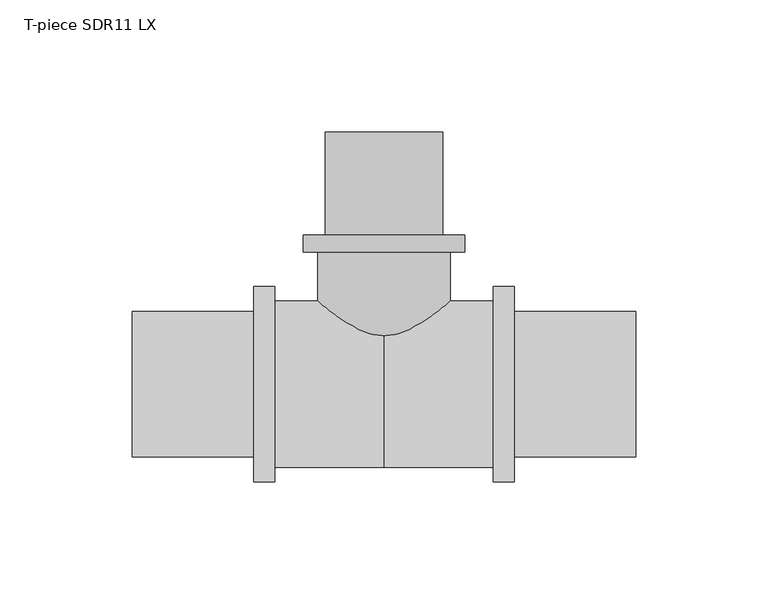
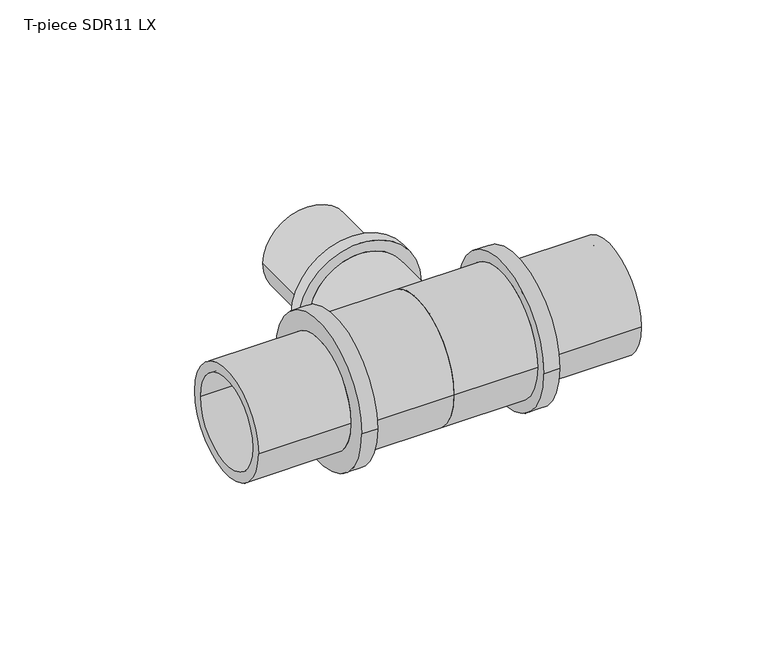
"""IFC4 building model written with IfcOpenShell, lengths in millimetres: pipe fitting geometry, T-piece SDR11 LX : T-piece LX SDR11 LX."""

from ifc_helpers import new_model, si_unit, point, frame, origin, place, context, project, spatial, polyline, circle_curve, ellipse_curve, trimmed, source, transform, mapped, element, save
from ifc_brep_helpers import plane_surface, cylinder_surface, revolved_surface, advanced_brep


def t_piece_sdr11_lx_7730ed08(model_context):
    return source(origin(), model_context, "Body", "AdvancedBrep", [
        advanced_brep(
        [(25.0, 2.0160392, 0.0), (-25.0, 2.0160392, 0.0), (-25.0, 50.1, 0.0), (25.0, 50.1, 0.0), (17.75, 95.5, 0.0), (-17.75, 95.5, 0.0), (-17.75, 0.0, 0.0), (17.75, 0.0, 0.0), (22.15, 56.5, 0.0), (-22.15, 56.5, 0.0), (-22.15, 95.5, 0.0), (22.15, 95.5, 0.0), (30.5, 50.1, 0.0), (-30.5, 50.1, 0.0), (-30.5, 56.5, 0.0), (30.5, 56.5, 0.0)],
        [
            (0, 1, circle_curve(frame((0.0, 2.0160392, 0.0), z_axis=(0.0, 1.0, 0.0), x_axis=(-1.0, 0.0, 0.0)), 25.0)),
            (1, 2),
            (2, 3, circle_curve(frame((0.0, 50.1, 0.0), z_axis=(0.0, -1.0, 0.0), x_axis=(-1.0, 0.0, 0.0)), 25.0)),
            (3, 0),
            (4, 5, circle_curve(frame((0.0, 95.5, 0.0), z_axis=(0.0, 1.0, 0.0), x_axis=(-1.0, 0.0, 0.0)), 17.75)),
            (5, 6),
            (6, 7, circle_curve(frame((0.0, 0.0, 0.0), z_axis=(0.0, -1.0, 0.0), x_axis=(-1.0, 0.0, 0.0)), 17.75)),
            (7, 4),
            (8, 9, circle_curve(frame((0.0, 56.5, 0.0), z_axis=(0.0, 1.0, 0.0), x_axis=(-1.0, 0.0, 0.0)), 22.15)),
            (9, 10),
            (10, 11, circle_curve(frame((0.0, 95.5, 0.0), z_axis=(0.0, -1.0, 0.0), x_axis=(-1.0, 0.0, 0.0)), 22.15)),
            (11, 8),
            (12, 13, circle_curve(frame((0.0, 50.1, 0.0), z_axis=(0.0, 1.0, 0.0), x_axis=(-1.0, 0.0, 0.0)), 30.5)),
            (13, 14),
            (14, 15, circle_curve(frame((0.0, 56.5, 0.0), z_axis=(0.0, -1.0, 0.0), x_axis=(-1.0, 0.0, 0.0)), 30.5)),
            (15, 12),
            (12, 13, circle_curve(frame((0.0, 50.1, 0.0), z_axis=(0.0, -1.0, 0.0), x_axis=(1.0, 0.0, 0.0)), 30.5)),
            (2, 3, circle_curve(frame((0.0, 50.1, 0.0), z_axis=(0.0, 1.0, 0.0), x_axis=(1.0, 0.0, 0.0)), 25.0)),
            (1, 0, circle_curve(frame((0.0, 2.0160392, 0.0), z_axis=(0.0, 1.0, 0.0), x_axis=(1.0, 0.0, 0.0)), 25.0)),
            (5, 4, circle_curve(frame((0.0, 95.5, 0.0), z_axis=(0.0, 1.0, 0.0), x_axis=(1.0, 0.0, 0.0)), 17.75)),
            (7, 6, circle_curve(frame((0.0, 0.0, 0.0), z_axis=(0.0, -1.0, 0.0), x_axis=(1.0, 0.0, 0.0)), 17.75)),
            (10, 11, circle_curve(frame((0.0, 95.5, 0.0), z_axis=(0.0, 1.0, 0.0), x_axis=(1.0, 0.0, 0.0)), 22.15)),
            (9, 8, circle_curve(frame((0.0, 56.5, 0.0), z_axis=(0.0, 1.0, 0.0), x_axis=(1.0, 0.0, 0.0)), 22.15)),
            (14, 15, circle_curve(frame((0.0, 56.5, 0.0), z_axis=(0.0, 1.0, 0.0), x_axis=(1.0, 0.0, 0.0)), 30.5)),
            (6, 1, circle_curve(frame((-12.9962802, 31.1392381, 0.0), z_axis=(0.0, 0.0, -1.0), x_axis=(0.0, -1.0, 0.0)), 31.5)),
            (0, 7, circle_curve(frame((12.9962802, 31.1392381, 0.0), z_axis=(0.0, 0.0, -1.0), x_axis=(0.0, -1.0, 0.0)), 31.5)),
        ],
        [
            cylinder_surface(frame((0.0, 0.0, 0.0), z_axis=(0.0, -1.0, 0.0), x_axis=(-1.0, 0.0, 0.0)), 25.0),
            revolved_surface(polyline([(-17.75, 0.0, 0.0), (-17.75, 95.5, 0.0)]), (0.0, 0.0, 0.0), (0.0, -1.0, 0.0)),
            cylinder_surface(frame((0.0, 0.0, 0.0), z_axis=(0.0, -1.0, 0.0), x_axis=(-1.0, 0.0, 0.0)), 22.15),
            cylinder_surface(frame((0.0, 0.0, 0.0), z_axis=(0.0, -1.0, 0.0), x_axis=(-1.0, 0.0, 0.0)), 30.5),
            plane_surface(frame((0.0, 50.1, 0.0), z_axis=(0.0, -1.0, 0.0), x_axis=(1.0, 0.0, 0.0))),
            cylinder_surface(frame((0.0, 0.0, 0.0), z_axis=(0.0, -1.0, 0.0), x_axis=(1.0, 0.0, 0.0)), 25.0),
            revolved_surface(polyline([(17.75, 0.0, 0.0), (17.75, 95.5, 0.0)]), (0.0, 0.0, 0.0), (0.0, -1.0, 0.0)),
            plane_surface(frame((0.0, 95.5, 0.0), z_axis=(0.0, 1.0, 0.0), x_axis=(1.0, 0.0, 0.0))),
            cylinder_surface(frame((0.0, 0.0, 0.0), z_axis=(0.0, -1.0, 0.0), x_axis=(1.0, 0.0, 0.0)), 22.15),
            plane_surface(frame((0.0, 56.5, 0.0), z_axis=(0.0, 1.0, 0.0), x_axis=(1.0, 0.0, 0.0))),
            cylinder_surface(frame((0.0, 0.0, 0.0), z_axis=(0.0, -1.0, 0.0), x_axis=(1.0, 0.0, 0.0)), 30.5),
            revolved_surface(trimmed(ellipse_curve(frame((-12.9962802, 31.1392381, 0.0), z_axis=(0.0, 0.0, 1.0), x_axis=(0.0, -1.0, 0.0)), 31.5, 31.5), [point((-25.0, 2.0160392, 0.0))], [point((-17.75, 0.0, 0.0))], True, "CARTESIAN"), (0.0, 0.0, 0.0), (0.0, -1.0, 0.0)),
            revolved_surface(trimmed(ellipse_curve(frame((12.9962802, 31.1392381, 0.0), z_axis=(0.0, 0.0, -1.0), x_axis=(0.0, -1.0, 0.0)), 31.5, 31.5), [point((25.0, 2.0160392, 0.0))], [point((17.75, 0.0, 0.0))], True, "CARTESIAN"), (0.0, 0.0, 0.0), (0.0, -1.0, 0.0)),
        ],
        [
            (0, [[1, 2, 3, 4]]),
            (1, [[5, 6, 7, 8]]),
            (2, [[9, 10, 11, 12]]),
            (3, [[13, 14, 15, 16]]),
            (4, [[17, -13], [18, -3]]),
            (5, [[19, -4, -18, -2]]),
            (6, [[20, -8, 21, -6]]),
            (7, [[22, -11], [-20, -5]]),
            (8, [[23, -12, -22, -10]]),
            (9, [[24, -15], [-23, -9]]),
            (10, [[-17, -16, -24, -14]]),
            (11, [[-7, 25, -1, 26]]),
            (12, [[-21, -26, -19, -25]]),
        ],
    ),
        advanced_brep(
        [(41.4, 31.5, 0.0), (41.4, -31.5, 0.0), (0.0, -31.5, 0.0), (0.0, 31.5, 0.0), (0.0, 22.5, 0.0), (0.0, -22.5, 0.0), (95.3, -22.5, 0.0), (95.3, 22.5, 0.0), (95.3, 27.55, 0.0), (95.3, -27.55, 0.0), (49.3, -27.55, 0.0), (49.3, 27.55, 0.0), (49.3, 37.0, 0.0), (49.3, -37.0, 0.0), (41.4, -37.0, 0.0), (41.4, 37.0, 0.0)],
        [
            (0, 1, circle_curve(frame((41.4, 0.0, 0.0), z_axis=(-1.0, 0.0, 0.0), x_axis=(0.0, -1.0, 0.0)), 31.5)),
            (1, 2),
            (2, 3, circle_curve(frame((0.0, 0.0, 0.0), z_axis=(1.0, 0.0, 0.0), x_axis=(0.0, -1.0, 0.0)), 31.5)),
            (3, 0),
            (4, 5, circle_curve(frame((0.0, 0.0, 0.0), z_axis=(-1.0, 0.0, 0.0), x_axis=(0.0, -1.0, 0.0)), 22.5)),
            (5, 6),
            (6, 7, circle_curve(frame((95.3, 0.0, 0.0), z_axis=(1.0, 0.0, 0.0), x_axis=(0.0, -1.0, 0.0)), 22.5)),
            (7, 4),
            (8, 9, circle_curve(frame((95.3, 0.0, 0.0), z_axis=(-1.0, 0.0, 0.0), x_axis=(0.0, -1.0, 0.0)), 27.55)),
            (9, 10),
            (10, 11, circle_curve(frame((49.3, 0.0, 0.0), z_axis=(1.0, 0.0, 0.0), x_axis=(0.0, -1.0, 0.0)), 27.55)),
            (11, 8),
            (12, 13, circle_curve(frame((49.3, 0.0, 0.0), z_axis=(-1.0, 0.0, 0.0), x_axis=(0.0, -1.0, 0.0)), 37.0)),
            (13, 14),
            (14, 15, circle_curve(frame((41.4, 0.0, 0.0), z_axis=(1.0, 0.0, 0.0), x_axis=(0.0, -1.0, 0.0)), 37.0)),
            (15, 12),
            (14, 15, circle_curve(frame((41.4, 0.0, 0.0), z_axis=(-1.0, 0.0, 0.0), x_axis=(0.0, 1.0, 0.0)), 37.0)),
            (0, 1, circle_curve(frame((41.4, 0.0, 0.0), z_axis=(1.0, 0.0, 0.0), x_axis=(0.0, 1.0, 0.0)), 31.5)),
            (3, 2, circle_curve(frame((0.0, 0.0, 0.0), z_axis=(1.0, 0.0, 0.0), x_axis=(0.0, 1.0, 0.0)), 31.5)),
            (4, 5, circle_curve(frame((0.0, 0.0, 0.0), z_axis=(1.0, 0.0, 0.0), x_axis=(0.0, 1.0, 0.0)), 22.5)),
            (7, 6, circle_curve(frame((95.3, 0.0, 0.0), z_axis=(1.0, 0.0, 0.0), x_axis=(0.0, 1.0, 0.0)), 22.5)),
            (8, 9, circle_curve(frame((95.3, 0.0, 0.0), z_axis=(1.0, 0.0, 0.0), x_axis=(0.0, 1.0, 0.0)), 27.55)),
            (11, 10, circle_curve(frame((49.3, 0.0, 0.0), z_axis=(1.0, 0.0, 0.0), x_axis=(0.0, 1.0, 0.0)), 27.55)),
            (12, 13, circle_curve(frame((49.3, 0.0, 0.0), z_axis=(1.0, 0.0, 0.0), x_axis=(0.0, 1.0, 0.0)), 37.0)),
        ],
        [
            cylinder_surface(frame((0.0, 0.0, 0.0), z_axis=(1.0, 0.0, 0.0), x_axis=(0.0, -1.0, 0.0)), 31.5),
            revolved_surface(polyline([(95.3, -22.5, 0.0), (0.0, -22.5, 0.0)]), (0.0, 0.0, 0.0), (1.0, 0.0, 0.0)),
            cylinder_surface(frame((0.0, 0.0, 0.0), z_axis=(1.0, 0.0, 0.0), x_axis=(0.0, -1.0, 0.0)), 27.55),
            cylinder_surface(frame((0.0, 0.0, 0.0), z_axis=(1.0, 0.0, 0.0), x_axis=(0.0, -1.0, 0.0)), 37.0),
            plane_surface(frame((41.4, 0.0, 0.0), z_axis=(-1.0, 0.0, 0.0), x_axis=(0.0, 1.0, 0.0))),
            cylinder_surface(frame((0.0, 0.0, 0.0), z_axis=(1.0, 0.0, 0.0), x_axis=(0.0, 1.0, 0.0)), 31.5),
            plane_surface(frame((0.0, 0.0, 0.0), z_axis=(-1.0, 0.0, 0.0), x_axis=(0.0, 1.0, 0.0))),
            revolved_surface(polyline([(95.3, 22.5, 0.0), (0.0, 22.5, 0.0)]), (0.0, 0.0, 0.0), (1.0, 0.0, 0.0)),
            plane_surface(frame((95.3, 0.0, 0.0), z_axis=(1.0, 0.0, 0.0), x_axis=(0.0, 1.0, 0.0))),
            cylinder_surface(frame((0.0, 0.0, 0.0), z_axis=(1.0, 0.0, 0.0), x_axis=(0.0, 1.0, 0.0)), 27.55),
            plane_surface(frame((49.3, 0.0, 0.0), z_axis=(1.0, 0.0, 0.0), x_axis=(0.0, 1.0, 0.0))),
            cylinder_surface(frame((0.0, 0.0, 0.0), z_axis=(1.0, 0.0, 0.0), x_axis=(0.0, 1.0, 0.0)), 37.0),
        ],
        [
            (0, [[1, 2, 3, 4]]),
            (1, [[5, 6, 7, 8]]),
            (2, [[9, 10, 11, 12]]),
            (3, [[13, 14, 15, 16]]),
            (4, [[17, -15], [18, -1]]),
            (5, [[-18, -4, 19, -2]]),
            (6, [[-19, -3], [20, -5]]),
            (7, [[-20, -8, 21, -6]]),
            (8, [[22, -9], [-21, -7]]),
            (9, [[-22, -12, 23, -10]]),
            (10, [[24, -13], [-23, -11]]),
            (11, [[-24, -16, -17, -14]]),
        ],
    ),
        advanced_brep(
        [(0.0, 31.5, 0.0), (0.0, -31.5, 0.0), (-41.4, -31.5, 0.0), (-41.4, 31.5, 0.0), (-95.3, 22.5, 0.0), (-95.3, -22.5, 0.0), (0.0, -22.5, 0.0), (0.0, 22.5, 0.0), (-49.3, 27.55, 0.0), (-49.3, -27.55, 0.0), (-95.3, -27.55, 0.0), (-95.3, 27.55, 0.0), (-41.4, 37.0, 0.0), (-41.4, -37.0, 0.0), (-49.3, -37.0, 0.0), (-49.3, 37.0, 0.0)],
        [
            (0, 1, circle_curve(frame((0.0, 0.0, 0.0), z_axis=(-1.0, 0.0, 0.0), x_axis=(0.0, -1.0, 0.0)), 31.5)),
            (1, 2),
            (2, 3, circle_curve(frame((-41.4, 0.0, 0.0), z_axis=(1.0, 0.0, 0.0), x_axis=(0.0, -1.0, 0.0)), 31.5)),
            (3, 0),
            (4, 5, circle_curve(frame((-95.3, 0.0, 0.0), z_axis=(-1.0, 0.0, 0.0), x_axis=(0.0, -1.0, 0.0)), 22.5)),
            (5, 6),
            (6, 7, circle_curve(frame((0.0, 0.0, 0.0), z_axis=(1.0, 0.0, 0.0), x_axis=(0.0, -1.0, 0.0)), 22.5)),
            (7, 4),
            (8, 9, circle_curve(frame((-49.3, 0.0, 0.0), z_axis=(-1.0, 0.0, 0.0), x_axis=(0.0, -1.0, 0.0)), 27.55)),
            (9, 10),
            (10, 11, circle_curve(frame((-95.3, 0.0, 0.0), z_axis=(1.0, 0.0, 0.0), x_axis=(0.0, -1.0, 0.0)), 27.55)),
            (11, 8),
            (12, 13, circle_curve(frame((-41.4, 0.0, 0.0), z_axis=(-1.0, 0.0, 0.0), x_axis=(0.0, -1.0, 0.0)), 37.0)),
            (13, 14),
            (14, 15, circle_curve(frame((-49.3, 0.0, 0.0), z_axis=(1.0, 0.0, 0.0), x_axis=(0.0, -1.0, 0.0)), 37.0)),
            (15, 12),
            (12, 13, circle_curve(frame((-41.4, 0.0, 0.0), z_axis=(1.0, 0.0, 0.0), x_axis=(0.0, 1.0, 0.0)), 37.0)),
            (2, 3, circle_curve(frame((-41.4, 0.0, 0.0), z_axis=(-1.0, 0.0, 0.0), x_axis=(0.0, 1.0, 0.0)), 31.5)),
            (1, 0, circle_curve(frame((0.0, 0.0, 0.0), z_axis=(-1.0, 0.0, 0.0), x_axis=(0.0, 1.0, 0.0)), 31.5)),
            (6, 7, circle_curve(frame((0.0, 0.0, 0.0), z_axis=(-1.0, 0.0, 0.0), x_axis=(0.0, 1.0, 0.0)), 22.5)),
            (5, 4, circle_curve(frame((-95.3, 0.0, 0.0), z_axis=(-1.0, 0.0, 0.0), x_axis=(0.0, 1.0, 0.0)), 22.5)),
            (10, 11, circle_curve(frame((-95.3, 0.0, 0.0), z_axis=(-1.0, 0.0, 0.0), x_axis=(0.0, 1.0, 0.0)), 27.55)),
            (9, 8, circle_curve(frame((-49.3, 0.0, 0.0), z_axis=(-1.0, 0.0, 0.0), x_axis=(0.0, 1.0, 0.0)), 27.55)),
            (14, 15, circle_curve(frame((-49.3, 0.0, 0.0), z_axis=(-1.0, 0.0, 0.0), x_axis=(0.0, 1.0, 0.0)), 37.0)),
        ],
        [
            cylinder_surface(frame((0.0, 0.0, 0.0), z_axis=(1.0, 0.0, 0.0), x_axis=(0.0, -1.0, 0.0)), 31.5),
            revolved_surface(polyline([(0.0, -22.5, 0.0), (-95.3, -22.5, 0.0)]), (0.0, 0.0, 0.0), (1.0, 0.0, 0.0)),
            cylinder_surface(frame((0.0, 0.0, 0.0), z_axis=(1.0, 0.0, 0.0), x_axis=(0.0, -1.0, 0.0)), 27.55),
            cylinder_surface(frame((0.0, 0.0, 0.0), z_axis=(1.0, 0.0, 0.0), x_axis=(0.0, -1.0, 0.0)), 37.0),
            plane_surface(frame((-41.4, 0.0, 0.0), z_axis=(1.0, 0.0, 0.0), x_axis=(0.0, 1.0, 0.0))),
            cylinder_surface(frame((0.0, 0.0, 0.0), z_axis=(1.0, 0.0, 0.0), x_axis=(0.0, 1.0, 0.0)), 31.5),
            plane_surface(frame((0.0, 0.0, 0.0), z_axis=(1.0, 0.0, 0.0), x_axis=(0.0, 1.0, 0.0))),
            revolved_surface(polyline([(0.0, 22.5, 0.0), (-95.3, 22.5, 0.0)]), (0.0, 0.0, 0.0), (1.0, 0.0, 0.0)),
            plane_surface(frame((-95.3, 0.0, 0.0), z_axis=(-1.0, 0.0, 0.0), x_axis=(0.0, 1.0, 0.0))),
            cylinder_surface(frame((0.0, 0.0, 0.0), z_axis=(1.0, 0.0, 0.0), x_axis=(0.0, 1.0, 0.0)), 27.55),
            plane_surface(frame((-49.3, 0.0, 0.0), z_axis=(-1.0, 0.0, 0.0), x_axis=(0.0, 1.0, 0.0))),
            cylinder_surface(frame((0.0, 0.0, 0.0), z_axis=(1.0, 0.0, 0.0), x_axis=(0.0, 1.0, 0.0)), 37.0),
        ],
        [
            (0, [[1, 2, 3, 4]]),
            (1, [[5, 6, 7, 8]]),
            (2, [[9, 10, 11, 12]]),
            (3, [[13, 14, 15, 16]]),
            (4, [[17, -13], [18, -3]]),
            (5, [[19, -4, -18, -2]]),
            (6, [[-19, -1], [20, -7]]),
            (7, [[21, -8, -20, -6]]),
            (8, [[22, -11], [-21, -5]]),
            (9, [[23, -12, -22, -10]]),
            (10, [[24, -15], [-23, -9]]),
            (11, [[-17, -16, -24, -14]]),
        ],
    ),
    ])


if __name__ == "__main__":
    model = new_model("IFC4")
    model_context = context("Model", 3, world=origin())
    ifc_project = project(units=[si_unit("LENGTHUNIT", "METRE", prefix="MILLI")], contexts=[model_context])
    site = spatial("IfcSite", under=ifc_project)
    building = spatial("IfcBuilding", under=site)
    placement = place(None, origin())
    t_piece_sdr11_lx_shape = t_piece_sdr11_lx_7730ed08(model_context)
    element("IfcPipeFitting", 1, ObjectType="T-piece SDR11 LX : T-piece LX SDR11 LX", at=placement, inside=building, context=model_context, shape_type="MappedRepresentation", body=[
        mapped(t_piece_sdr11_lx_shape, transform((0.0, 0.0, 0.0), x_axis=(1.0, 0.0, 0.0), y_axis=(0.0, 1.0, 0.0), z_axis=(0.0, 0.0, 1.0))),
    ])
    save(model, "model.ifc")
